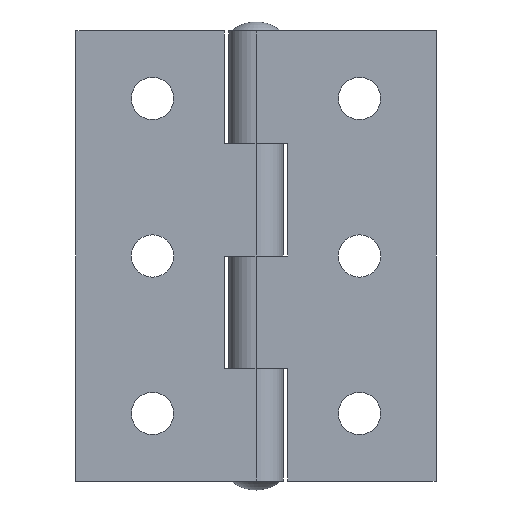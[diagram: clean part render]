
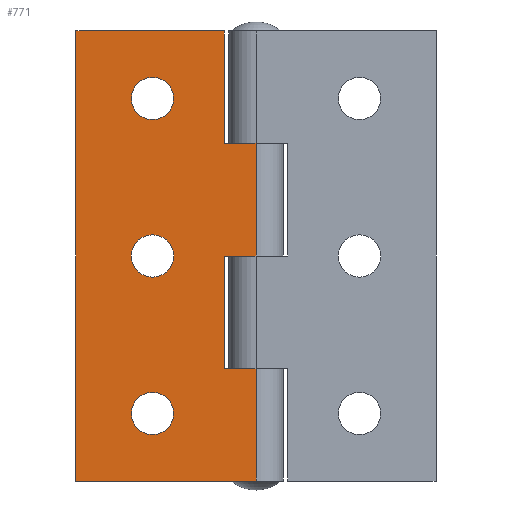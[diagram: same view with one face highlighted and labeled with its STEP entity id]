
A CAD part, front view. The second image highlights one B-rep face of the part: STEP entity #771.
In plain terms, the highlighted planar face has unit normal (0, -1, 0).
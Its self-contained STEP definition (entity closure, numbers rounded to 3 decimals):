
#1 = LINE ( 'NONE', #35, #28 ) ;
#6 = DIRECTION ( 'NONE',  ( 0., 0., 1. ) ) ;
#7 = DIRECTION ( 'NONE',  ( 0., 1., 0. ) ) ;
#8 = AXIS2_PLACEMENT_3D ( 'NONE', #59, #7, #6 ) ;
#9 = CIRCLE ( 'NONE', #8, 2.35 ) ;
#11 = DIRECTION ( 'NONE',  ( 0., 0., 1. ) ) ;
#12 = DIRECTION ( 'NONE',  ( 0., 1., 0. ) ) ;
#18 = DIRECTION ( 'NONE',  ( -1., 0., 0. ) ) ;
#19 = VECTOR ( 'NONE', #18, 1000. ) ;
#20 = CARTESIAN_POINT ( 'NONE',  ( 3.908, -2.333, 37.5 ) ) ;
#21 = LINE ( 'NONE', #20, #19 ) ;
#22 = CARTESIAN_POINT ( 'NONE',  ( 3.908, -2.333, 37.5 ) ) ;
#23 = DIRECTION ( 'NONE',  ( 0., 0., -1. ) ) ;
#24 = VECTOR ( 'NONE', #23, 1000. ) ;
#25 = CARTESIAN_POINT ( 'NONE',  ( 3.908, -2.333, 50. ) ) ;
#26 = LINE ( 'NONE', #25, #24 ) ;
#27 = CARTESIAN_POINT ( 'NONE',  ( 0.408, -2.333, 12.5 ) ) ;
#28 = VECTOR ( 'NONE', #32, 1000. ) ;
#29 = DIRECTION ( 'NONE',  ( 0., 0., 1. ) ) ;
#30 = DIRECTION ( 'NONE',  ( 0., 1., 0. ) ) ;
#31 = AXIS2_PLACEMENT_3D ( 'NONE', #54, #30, #29 ) ;
#32 = DIRECTION ( 'NONE',  ( 0., 0., 1. ) ) ;
#33 = FACE_BOUND ( 'NONE', #778, .T. ) ;
#34 = CARTESIAN_POINT ( 'NONE',  ( 0.408, -2.333, 25. ) ) ;
#35 = CARTESIAN_POINT ( 'NONE',  ( 0.408, -2.333, 12.5 ) ) ;
#36 = FACE_OUTER_BOUND ( 'NONE', #667, .T. ) ;
#37 = FACE_BOUND ( 'NONE', #663, .T. ) ;
#38 = FACE_BOUND ( 'NONE', #775, .T. ) ;
#39 = CARTESIAN_POINT ( 'NONE',  ( 3.908, -2.333, 25. ) ) ;
#40 = DIRECTION ( 'NONE',  ( 1., 0., 0. ) ) ;
#41 = VECTOR ( 'NONE', #40, 1000. ) ;
#42 = CARTESIAN_POINT ( 'NONE',  ( 0.408, -2.333, 25. ) ) ;
#43 = LINE ( 'NONE', #42, #41 ) ;
#54 = CARTESIAN_POINT ( 'NONE',  ( 3.908, -2.333, 50. ) ) ;
#55 = PLANE ( 'NONE',  #31 ) ;
#56 = CARTESIAN_POINT ( 'NONE',  ( -7.592, -2.333, 42.5 ) ) ;
#57 = AXIS2_PLACEMENT_3D ( 'NONE', #56, #12, #11 ) ;
#58 = CIRCLE ( 'NONE', #57, 2.35 ) ;
#59 = CARTESIAN_POINT ( 'NONE',  ( -7.592, -2.333, 7.5 ) ) ;
#301 = CARTESIAN_POINT ( 'NONE',  ( -16.092, -2.333, 50. ) ) ;
#302 = DIRECTION ( 'NONE',  ( 1., 0., 0. ) ) ;
#303 = VECTOR ( 'NONE', #302, 1000. ) ;
#304 = CARTESIAN_POINT ( 'NONE',  ( 3.908, -2.333, 50. ) ) ;
#305 = DIRECTION ( 'NONE',  ( 0., 0., 1. ) ) ;
#306 = DIRECTION ( 'NONE',  ( 0., 1., 0. ) ) ;
#307 = CARTESIAN_POINT ( 'NONE',  ( -7.592, -2.333, 25. ) ) ;
#308 = AXIS2_PLACEMENT_3D ( 'NONE', #307, #306, #305 ) ;
#309 = CIRCLE ( 'NONE', #308, 2.35 ) ;
#310 = LINE ( 'NONE', #304, #303 ) ;
#401 = EDGE_CURVE ( 'NONE', #404, #402, #1039, .T. ) ;
#402 = VERTEX_POINT ( 'NONE', #1030 ) ;
#404 = VERTEX_POINT ( 'NONE', #1029 ) ;
#417 = VERTEX_POINT ( 'NONE', #863 ) ;
#421 = VERTEX_POINT ( 'NONE', #854 ) ;
#502 = EDGE_CURVE ( 'NONE', #503, #417, #1210, .T. ) ;
#503 = VERTEX_POINT ( 'NONE', #1206 ) ;
#505 = VERTEX_POINT ( 'NONE', #1205 ) ;
#506 = EDGE_CURVE ( 'NONE', #421, #505, #1203, .T. ) ;
#662 = ORIENTED_EDGE ( 'NONE', *, *, #506, .T. ) ;
#663 = EDGE_LOOP ( 'NONE', ( #664, #666 ) ) ;
#664 = ORIENTED_EDGE ( 'NONE', *, *, #665, .T. ) ;
#665 = EDGE_CURVE ( 'NONE', #417, #503, #309, .T. ) ;
#666 = ORIENTED_EDGE ( 'NONE', *, *, #502, .T. ) ;
#667 = EDGE_LOOP ( 'NONE', ( #748, #668, #671, #758, #761, #764, #767, #770, #790, #793 ) ) ;
#668 = ORIENTED_EDGE ( 'NONE', *, *, #669, .F. ) ;
#669 = EDGE_CURVE ( 'NONE', #670, #751, #310, .T. ) ;
#670 = VERTEX_POINT ( 'NONE', #301 ) ;
#671 = ORIENTED_EDGE ( 'NONE', *, *, #756, .T. ) ;
#748 = ORIENTED_EDGE ( 'NONE', *, *, #749, .T. ) ;
#749 = EDGE_CURVE ( 'NONE', #750, #751, #1328, .T. ) ;
#750 = VERTEX_POINT ( 'NONE', #1324 ) ;
#751 = VERTEX_POINT ( 'NONE', #1323 ) ;
#756 = EDGE_CURVE ( 'NONE', #670, #757, #1368, .T. ) ;
#757 = VERTEX_POINT ( 'NONE', #1360 ) ;
#758 = ORIENTED_EDGE ( 'NONE', *, *, #759, .T. ) ;
#759 = EDGE_CURVE ( 'NONE', #757, #760, #1359, .T. ) ;
#760 = VERTEX_POINT ( 'NONE', #1355 ) ;
#761 = ORIENTED_EDGE ( 'NONE', *, *, #762, .F. ) ;
#762 = EDGE_CURVE ( 'NONE', #763, #760, #1354, .T. ) ;
#763 = VERTEX_POINT ( 'NONE', #1350 ) ;
#764 = ORIENTED_EDGE ( 'NONE', *, *, #765, .T. ) ;
#765 = EDGE_CURVE ( 'NONE', #763, #766, #1349, .T. ) ;
#766 = VERTEX_POINT ( 'NONE', #27 ) ;
#767 = ORIENTED_EDGE ( 'NONE', *, *, #768, .T. ) ;
#768 = EDGE_CURVE ( 'NONE', #766, #769, #1, .T. ) ;
#769 = VERTEX_POINT ( 'NONE', #34 ) ;
#770 = ORIENTED_EDGE ( 'NONE', *, *, #788, .T. ) ;
#771 = ADVANCED_FACE ( 'NONE', ( #33, #38, #37, #36 ), #55, .F. ) ;
#772 = ORIENTED_EDGE ( 'NONE', *, *, #773, .T. ) ;
#773 = EDGE_CURVE ( 'NONE', #402, #404, #58, .T. ) ;
#774 = ORIENTED_EDGE ( 'NONE', *, *, #401, .T. ) ;
#775 = EDGE_LOOP ( 'NONE', ( #776, #662 ) ) ;
#776 = ORIENTED_EDGE ( 'NONE', *, *, #777, .T. ) ;
#777 = EDGE_CURVE ( 'NONE', #505, #421, #9, .T. ) ;
#778 = EDGE_LOOP ( 'NONE', ( #772, #774 ) ) ;
#788 = EDGE_CURVE ( 'NONE', #769, #789, #43, .T. ) ;
#789 = VERTEX_POINT ( 'NONE', #39 ) ;
#790 = ORIENTED_EDGE ( 'NONE', *, *, #791, .F. ) ;
#791 = EDGE_CURVE ( 'NONE', #792, #789, #26, .T. ) ;
#792 = VERTEX_POINT ( 'NONE', #22 ) ;
#793 = ORIENTED_EDGE ( 'NONE', *, *, #794, .T. ) ;
#794 = EDGE_CURVE ( 'NONE', #792, #750, #21, .T. ) ;
#854 = CARTESIAN_POINT ( 'NONE',  ( -7.592, -2.333, 5.15 ) ) ;
#863 = CARTESIAN_POINT ( 'NONE',  ( -7.592, -2.333, 27.35 ) ) ;
#1029 = CARTESIAN_POINT ( 'NONE',  ( -7.592, -2.333, 40.15 ) ) ;
#1030 = CARTESIAN_POINT ( 'NONE',  ( -7.592, -2.333, 44.85 ) ) ;
#1031 = DIRECTION ( 'NONE',  ( 0., 0., 1. ) ) ;
#1032 = DIRECTION ( 'NONE',  ( 0., 1., 0. ) ) ;
#1033 = CARTESIAN_POINT ( 'NONE',  ( -7.592, -2.333, 42.5 ) ) ;
#1034 = AXIS2_PLACEMENT_3D ( 'NONE', #1033, #1032, #1031 ) ;
#1039 = CIRCLE ( 'NONE', #1034, 2.35 ) ;
#1080 = CARTESIAN_POINT ( 'NONE',  ( -7.592, -2.333, 25. ) ) ;
#1199 = DIRECTION ( 'NONE',  ( 0., 0., 1. ) ) ;
#1200 = DIRECTION ( 'NONE',  ( 0., 1., 0. ) ) ;
#1201 = CARTESIAN_POINT ( 'NONE',  ( -7.592, -2.333, 7.5 ) ) ;
#1202 = AXIS2_PLACEMENT_3D ( 'NONE', #1201, #1200, #1199 ) ;
#1203 = CIRCLE ( 'NONE', #1202, 2.35 ) ;
#1205 = CARTESIAN_POINT ( 'NONE',  ( -7.592, -2.333, 9.85 ) ) ;
#1206 = CARTESIAN_POINT ( 'NONE',  ( -7.592, -2.333, 22.65 ) ) ;
#1207 = DIRECTION ( 'NONE',  ( 0., 0., 1. ) ) ;
#1208 = DIRECTION ( 'NONE',  ( 0., 1., 0. ) ) ;
#1209 = AXIS2_PLACEMENT_3D ( 'NONE', #1080, #1208, #1207 ) ;
#1210 = CIRCLE ( 'NONE', #1209, 2.35 ) ;
#1323 = CARTESIAN_POINT ( 'NONE',  ( 0.408, -2.333, 50. ) ) ;
#1324 = CARTESIAN_POINT ( 'NONE',  ( 0.408, -2.333, 37.5 ) ) ;
#1325 = DIRECTION ( 'NONE',  ( 0., 0., 1. ) ) ;
#1326 = VECTOR ( 'NONE', #1325, 1000. ) ;
#1327 = CARTESIAN_POINT ( 'NONE',  ( 0.408, -2.333, 50. ) ) ;
#1328 = LINE ( 'NONE', #1327, #1326 ) ;
#1346 = DIRECTION ( 'NONE',  ( -1., 0., 0. ) ) ;
#1347 = VECTOR ( 'NONE', #1346, 1000. ) ;
#1348 = CARTESIAN_POINT ( 'NONE',  ( 3.908, -2.333, 12.5 ) ) ;
#1349 = LINE ( 'NONE', #1348, #1347 ) ;
#1350 = CARTESIAN_POINT ( 'NONE',  ( 3.908, -2.333, 12.5 ) ) ;
#1351 = DIRECTION ( 'NONE',  ( 0., 0., -1. ) ) ;
#1352 = VECTOR ( 'NONE', #1351, 1000. ) ;
#1353 = CARTESIAN_POINT ( 'NONE',  ( 3.908, -2.333, 50. ) ) ;
#1354 = LINE ( 'NONE', #1353, #1352 ) ;
#1355 = CARTESIAN_POINT ( 'NONE',  ( 3.908, -2.333, 0. ) ) ;
#1356 = DIRECTION ( 'NONE',  ( 1., 0., 0. ) ) ;
#1357 = VECTOR ( 'NONE', #1356, 1000. ) ;
#1358 = CARTESIAN_POINT ( 'NONE',  ( 3.908, -2.333, 0. ) ) ;
#1359 = LINE ( 'NONE', #1358, #1357 ) ;
#1360 = CARTESIAN_POINT ( 'NONE',  ( -16.092, -2.333, 0. ) ) ;
#1361 = DIRECTION ( 'NONE',  ( 0., 0., -1. ) ) ;
#1362 = VECTOR ( 'NONE', #1361, 1000. ) ;
#1363 = CARTESIAN_POINT ( 'NONE',  ( -16.092, -2.333, 50. ) ) ;
#1368 = LINE ( 'NONE', #1363, #1362 ) ;
